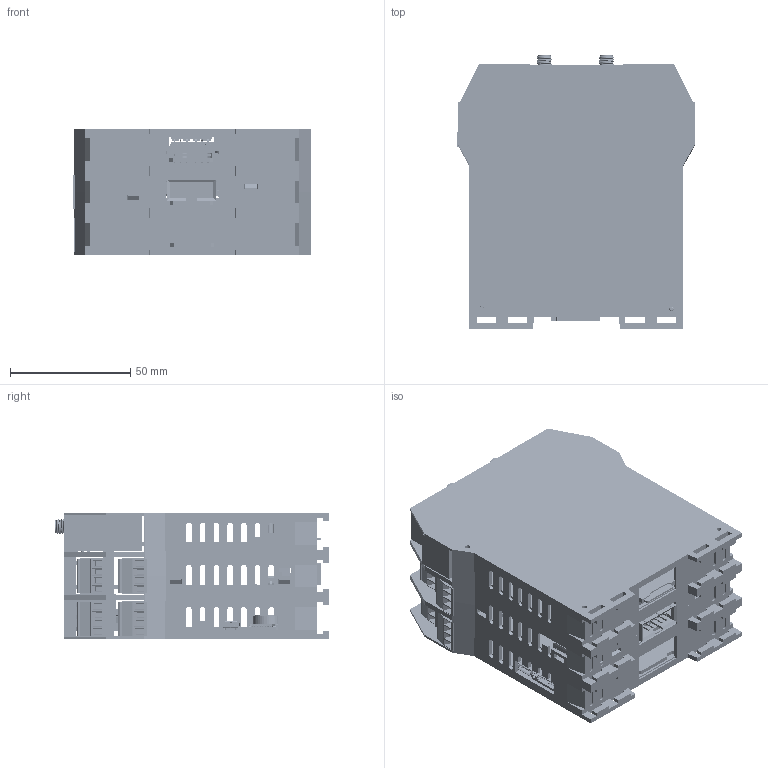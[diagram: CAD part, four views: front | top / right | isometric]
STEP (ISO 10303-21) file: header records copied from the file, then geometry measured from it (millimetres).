
FILE_DESCRIPTION(/* description */ ('STEP AP203','CAx-IF Rec.Pracs.---Representation and Presentation of Product Manufacturing Information (PMI)---4.0---2014-10-13'),/* implementation_level */ '2;1');
FILE_NAME(/* name */ 'C:\Users\zambolin\Desktop\Z-RT_3D\3D COMPLETO\Z-PASS2-RT\DM00206-0.stp',/* time_stamp */ '2024-03-20T08:18:11+01:00',/* author */ ('zambolin'),/* organization */ ('Default Math Test organization'),/* preprocessor_version */ 'ST-DEVELOPER v18.1',/* originating_system */ 'Autodesk Inventor 2022',/* authorisation */ 'Default Math Test authization');
FILE_SCHEMA (('AP242_MANAGED_MODEL_BASED_3D_ENGINEERING_MIM_LF { 1 0 10303 442 1 1 4 }'));
Products named in the file (82): Z-PASS2-RT_almostCompleted; NONE_2; NONE_1; NONE; PCB; Open CASCADE STEP translator 7.5 2.1.1; 4359082784; TPK9; TPK8; TPK7; TPK6; TPK5; TPK4; TPK3; TPK2; TPK1; NONE_5; NONE_4; NONE_3; PCB_1; Open CASCADE STEP translator 7.5 1.1.1; PV04-3,5-LDL-P; Cylinder_2; 0603 SMD Resistor; 0402 SMD Resistor; Interruttore Slide SMD; IDC-10M; User Library-IDC-10M_IDC_pin___ _________; Parte34; PV04-3,5-LSL-P; TP43; Cylinder; Cylinder_1; NONE_8; NONE_7; NONE_6; PM00492-2; NONE_11; NONE_10; NONE_9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
Assembly tree (161 placements, depth 7):
  Z-PASS2-RT_almostCompleted
    NONE_2
      NONE_1
        NONE
          PCB
            Open CASCADE STEP translator 7.5 2.1.1
            4359082784  x3
            KPA3010GCCK_GREEN  x8
            TPK9
              Cylinder
              Cylinder_1
            TPK8
              Cylinder
              Cylinder_1
            TPK7
              Cylinder
              Cylinder_1
            TPK6
              Cylinder
              Cylinder_1
            TPK5
              Cylinder
              Cylinder_1
            TPK4
              Cylinder
              Cylinder_1
            TPK3
              Cylinder
              Cylinder_1
            TPK2
              Cylinder
              Cylinder_1
            TPK1
              Cylinder
              Cylinder_1
    NONE_5
      NONE_4
        NONE_3
          PCB_1
            Open CASCADE STEP translator 7.5 1.1.1
            PV04-3,5-LSL-P  x2
            PV04-3,5-LDL-P  x2
            Cylinder_2  x2
            0402 SMD Resistor  x2
            0603 SMD Resistor
            Strip SMD 1x3 1241150-3  x3
            Interruttore Slide SMD
            CLT-106-02-F-D-BE
              CLT-106-02-F-D-BE_socket
              Parte30
            KPA3010GCCK_GREEN  x8
            IDC-10M
              User Library-IDC-10M_IDC_pin___ _________  x10
              Parte34
            TP43
              Cylinder
              Cylinder_1
    NONE_8
      NONE_7
        NONE_6
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Bounding box: 98.85 x 114.17 x 52.51 mm (x, y, z)
Volume: 130526.5 mm3; surface area: 185538.1 mm2
Topology: 195 solids, 220 shells, 13398 faces, 36412 edges, 23468 vertices
Faces by surface type: plane 10724, cylinder 2011, bspline 350, cone 130, torus 117, sphere 66
Full cylindrical faces by diameter (mm): 0.35 x1, 0.6 x4, 0.636 x10, 0.65 x4, 0.8 x2, 0.888 x2, 0.889 x10, 0.9 x98, 1 x30, 1.016 x8, 1.1 x2, 1.2 x60, 1.25 x2, 1.27 x2, 1.3 x6, 1.4 x13, 1.498 x10, 1.6 x2, 1.7 x2, 1.8 x28, 1.9 x4, 2 x4, 2.1 x4, 2.8 x30, 2.9 x2, 3 x28, 3.2 x8, 3.25 x2, 3.4 x1, 3.5 x1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
Entity records: 251873 total; most frequent: CARTESIAN_POINT 57392, ORIENTED_EDGE 39872, DIRECTION 37867, EDGE_CURVE 19948, LINE 16765, VECTOR 16765, VERTEX_POINT 12898, AXIS2_PLACEMENT_3D 10551
